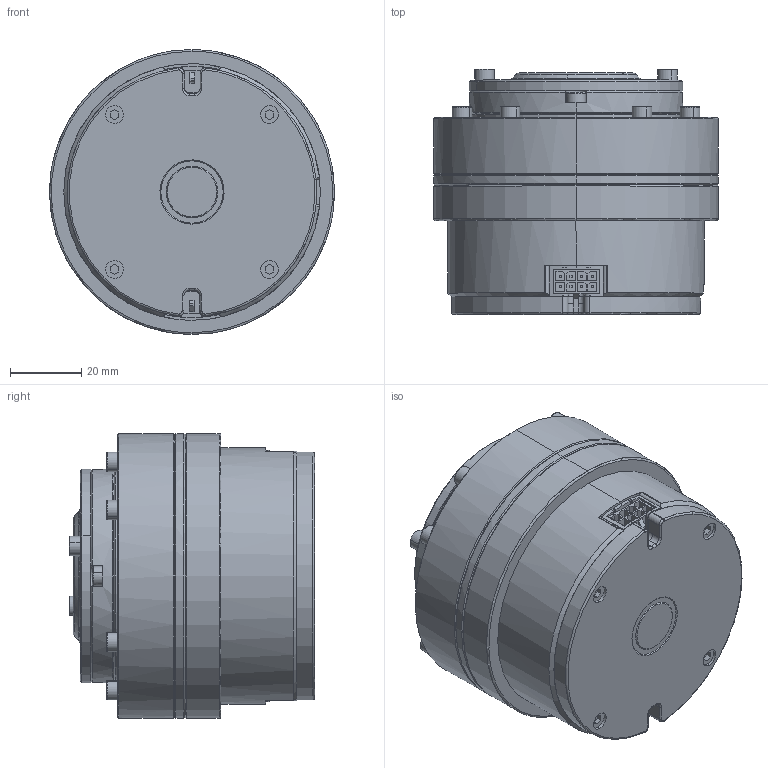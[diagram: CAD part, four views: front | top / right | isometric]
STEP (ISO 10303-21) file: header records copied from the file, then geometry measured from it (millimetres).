
FILE_DESCRIPTION (( 'STEP AP214' ), '1' );
FILE_NAME ('QddPro_6010_81_803D.STEP', '2019-04-23T10:06:39', ( 'Microsoft' ), ( 'Microsoft' ), 'SwSTEP 2.0', 'SolidWorks 2018', '' );
FILE_SCHEMA (( 'AUTOMOTIVE_DESIGN' ));
Length unit declared in the file: millimetre
Products named in the file (1): QddPro_6010_81_803D
Bounding box: 80 x 68.8 x 80 mm (x, y, z)
Volume: 216997 mm3; surface area: 113068.6 mm2
Topology: 113 solids, 113 shells, 2867 faces, 7087 edges, 4499 vertices
Faces by surface type: plane 1577, cylinder 729, cone 410, torus 80, bspline 71
Entity records: 127355 total; most frequent: CARTESIAN_POINT 28514, ORIENTED_EDGE 13990, DIRECTION 12841, EDGE_CURVE 6995, VERTEX_POINT 4499, LINE 4395, VECTOR 4395, AXIS2_PLACEMENT_3D 4223
